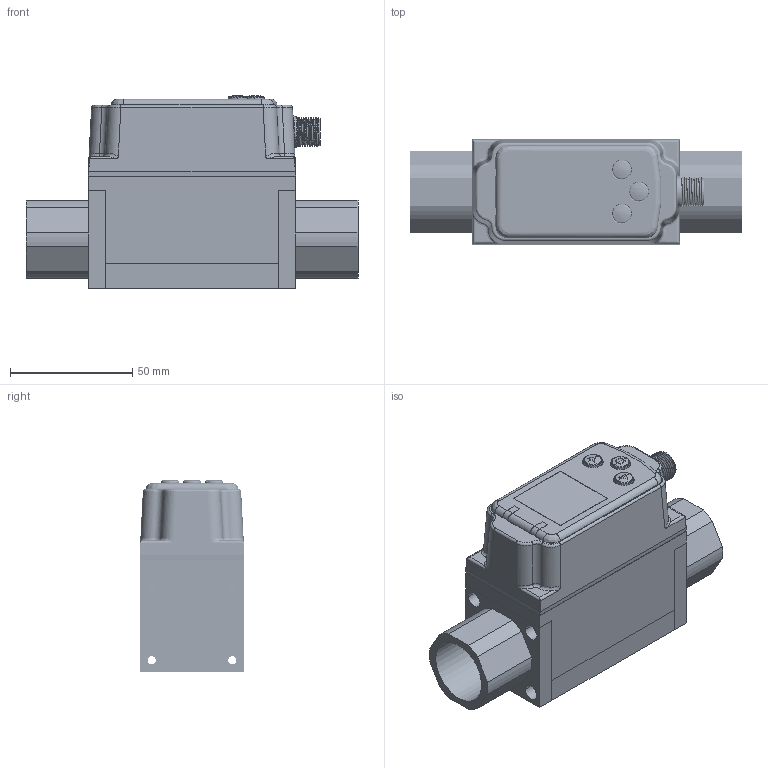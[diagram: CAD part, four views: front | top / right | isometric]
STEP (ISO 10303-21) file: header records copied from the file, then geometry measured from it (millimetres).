
FILE_DESCRIPTION (( 'STEP AP214' ), '1' );
FILE_NAME ('BFV2X20.STEP', '2025-06-25T07:26:47', ( '' ), ( '' ), 'SwSTEP 2.0', 'SolidWorks 2022', '' );
FILE_SCHEMA (( 'AUTOMOTIVE_DESIGN' ));
Length unit declared in the file: millimetre
Products named in the file (36): ADMI2E7CDAE9GQ3D_6^ADMI2E7CDAE9GQ3D_ASM_FXH-02000_ASM_BFV2X10(2)_BFV2X20; ADMI2E7CDAE9GQ3D_7^ADMI2E7CDAE9GQ3D_ASM_FXH-02000_ASM_BFV2X10(2)_BFV2X20; ADMI2E7CDAE9GQ3D_1^ADMI2E7CDAE9GQ3D_ASM_FXH-02000_ASM_BFV2X10(2)_BFV2X20; ADMI2E7CDAE9GQ3D_11^ADMI2E7CDAE9GQ3D_ASM_FXH-02000_ASM_BFV2X10(2)_BFV2X20; ADMI2E7CDAE9GQ3D_2^ADMI2E7CDAE9GQ3D_ASM_FXH-02000_ASM_BFV2X10(2)_BFV2X20; 071-316170001^07190001_ASM_BFV2X10(2)_BFV2X20; ADMI2E7CDAE9GQ3D_20^ADMI2E7CDAE9GQ3D_ASM_FXH-02000_ASM_BFV2X10(2)_BFV2X20; 222; ADMI2E7CDAE9GQ3D_13^ADMI2E7CDAE9GQ3D_ASM_FXH-02000_ASM_BFV2X10(2)_BFV2X20; 07190001_ASM^BFV2X10(2)_BFV2X20; 071-316200001^07190001_ASM_BFV2X10(2)_BFV2X20; ADMI2E7CDAE9GQ3D_10^ADMI2E7CDAE9GQ3D_ASM_FXH-02000_ASM_BFV2X10(2)_BFV2X20; 071-316150001^07190001_ASM_BFV2X10(2)_BFV2X20; ADMI2E7CDAE9GQ3D_3^ADMI2E7CDAE9GQ3D_ASM_FXH-02000_ASM_BFV2X10(2)_BFV2X20; BFV2X20; ADMI2E7CDAE9GQ3D_9^ADMI2E7CDAE9GQ3D_ASM_FXH-02000_ASM_BFV2X10(2)_BFV2X20; ADMI2E7CDAE9GQ3D_17^ADMI2E7CDAE9GQ3D_ASM_FXH-02000_ASM_BFV2X10(2)_BFV2X20; ADMI2E7CDAE9GQ3D_18^ADMI2E7CDAE9GQ3D_ASM_FXH-02000_ASM_BFV2X10(2)_BFV2X20; ADMI2E7CDAE9GQ3D_14^ADMI2E7CDAE9GQ3D_ASM_FXH-02000_ASM_BFV2X10(2)_BFV2X20; 0001^07190001_ASM_BFV2X10(2)_BFV2X10; ADMI2E7CDAE9GQ3D_8^ADMI2E7CDAE9GQ3D_ASM_FXH-02000_ASM_BFV2X10(2)_BFV2X20; ADMI2E7CDAE9GQ3D_4^ADMI2E7CDAE9GQ3D_ASM_FXH-02000_ASM_BFV2X10(2)_BFV2X20; 071-316220001^07190001_ASM_BFV2X10(2)_BFV2X20; 071-316190001^07190001_ASM_BFV2X10(2)_BFV2X20; FXH-02000_ASM^BFV2X10(2)_BFV2X20; 50001^07190001_ASM_BFV2X10(2)_BFV2X20; BFV2X10(2)^BFV2X20; 071-316210001^07190001_ASM_BFV2X10(2)_BFV2X20; ADMI2E7CDAE9GQ3D_12^ADMI2E7CDAE9GQ3D_ASM_FXH-02000_ASM_BFV2X10(2)_BFV2X20; ADMI2E7CDAE9GQ3D_15^ADMI2E7CDAE9GQ3D_ASM_FXH-02000_ASM_BFV2X10(2)_BFV2X20; ADMI2E7CDAE9GQ3D_5^ADMI2E7CDAE9GQ3D_ASM_FXH-02000_ASM_BFV2X10(2)_BFV2X20; ADMI2E7CDAE9GQ3D_19^ADMI2E7CDAE9GQ3D_ASM_FXH-02000_ASM_BFV2X10(2)_BFV2X20; ADMI2E7CDAE9GQ3D_16^ADMI2E7CDAE9GQ3D_ASM_FXH-02000_ASM_BFV2X10(2)_BFV2X20; 071-316180001^07190001_ASM_BFV2X10(2)_BFV2X20; 071-316160001^07190001_ASM_BFV2X10(2)_BFV2X20; ADMI2E7CDAE9GQ3D_ASM^FXH-02000_ASM_BFV2X10(2)_BFV2X20
Assembly tree (37 placements, depth 5):
  BFV2X20
    BFV2X10(2)^BFV2X20
      07190001_ASM^BFV2X10(2)_BFV2X20
        50001^07190001_ASM_BFV2X10(2)_BFV2X20
        071-316150001^07190001_ASM_BFV2X10(2)_BFV2X20
        071-316160001^07190001_ASM_BFV2X10(2)_BFV2X20
        071-316170001^07190001_ASM_BFV2X10(2)_BFV2X20
        071-316180001^07190001_ASM_BFV2X10(2)_BFV2X20
        071-316190001^07190001_ASM_BFV2X10(2)_BFV2X20
        071-316200001^07190001_ASM_BFV2X10(2)_BFV2X20
        071-316210001^07190001_ASM_BFV2X10(2)_BFV2X20
        071-316220001^07190001_ASM_BFV2X10(2)_BFV2X20
        0001^07190001_ASM_BFV2X10(2)_BFV2X10
      FXH-02000_ASM^BFV2X10(2)_BFV2X20
        ADMI2E7CDAE9GQ3D_ASM^FXH-02000_ASM_BFV2X10(2)_BFV2X20
          ADMI2E7CDAE9GQ3D_1^ADMI2E7CDAE9GQ3D_ASM_FXH-02000_ASM_BFV2X10(2)_BFV2X20
          ADMI2E7CDAE9GQ3D_2^ADMI2E7CDAE9GQ3D_ASM_FXH-02000_ASM_BFV2X10(2)_BFV2X20
          ADMI2E7CDAE9GQ3D_3^ADMI2E7CDAE9GQ3D_ASM_FXH-02000_ASM_BFV2X10(2)_BFV2X20
          ADMI2E7CDAE9GQ3D_4^ADMI2E7CDAE9GQ3D_ASM_FXH-02000_ASM_BFV2X10(2)_BFV2X20
          ADMI2E7CDAE9GQ3D_5^ADMI2E7CDAE9GQ3D_ASM_FXH-02000_ASM_BFV2X10(2)_BFV2X20
          ADMI2E7CDAE9GQ3D_6^ADMI2E7CDAE9GQ3D_ASM_FXH-02000_ASM_BFV2X10(2)_BFV2X20
          ADMI2E7CDAE9GQ3D_7^ADMI2E7CDAE9GQ3D_ASM_FXH-02000_ASM_BFV2X10(2)_BFV2X20
          ADMI2E7CDAE9GQ3D_8^ADMI2E7CDAE9GQ3D_ASM_FXH-02000_ASM_BFV2X10(2)_BFV2X20
          ADMI2E7CDAE9GQ3D_9^ADMI2E7CDAE9GQ3D_ASM_FXH-02000_ASM_BFV2X10(2)_BFV2X20
          ADMI2E7CDAE9GQ3D_10^ADMI2E7CDAE9GQ3D_ASM_FXH-02000_ASM_BFV2X10(2)_BFV2X20
          ADMI2E7CDAE9GQ3D_11^ADMI2E7CDAE9GQ3D_ASM_FXH-02000_ASM_BFV2X10(2)_BFV2X20
          ADMI2E7CDAE9GQ3D_12^ADMI2E7CDAE9GQ3D_ASM_FXH-02000_ASM_BFV2X10(2)_BFV2X20
          ADMI2E7CDAE9GQ3D_13^ADMI2E7CDAE9GQ3D_ASM_FXH-02000_ASM_BFV2X10(2)_BFV2X20
          ADMI2E7CDAE9GQ3D_14^ADMI2E7CDAE9GQ3D_ASM_FXH-02000_ASM_BFV2X10(2)_BFV2X20
          ADMI2E7CDAE9GQ3D_15^ADMI2E7CDAE9GQ3D_ASM_FXH-02000_ASM_BFV2X10(2)_BFV2X20
          ADMI2E7CDAE9GQ3D_16^ADMI2E7CDAE9GQ3D_ASM_FXH-02000_ASM_BFV2X10(2)_BFV2X20
          ADMI2E7CDAE9GQ3D_17^ADMI2E7CDAE9GQ3D_ASM_FXH-02000_ASM_BFV2X10(2)_BFV2X20
          ADMI2E7CDAE9GQ3D_18^ADMI2E7CDAE9GQ3D_ASM_FXH-02000_ASM_BFV2X10(2)_BFV2X20
          ADMI2E7CDAE9GQ3D_19^ADMI2E7CDAE9GQ3D_ASM_FXH-02000_ASM_BFV2X10(2)_BFV2X20
          ADMI2E7CDAE9GQ3D_20^ADMI2E7CDAE9GQ3D_ASM_FXH-02000_ASM_BFV2X10(2)_BFV2X20
    0001^07190001_ASM_BFV2X10(2)_BFV2X10
    222  x2
Bounding box: 136 x 43 x 78.95 mm (x, y, z)
Volume: 139361.4 mm3; surface area: 123076.5 mm2
Topology: 30 solids, 41 shells, 3643 faces, 10298 edges, 6835 vertices
Faces by surface type: plane 1864, cylinder 1326, cone 180, bspline 173, torus 88, sphere 12
Entity records: 173586 total; most frequent: CARTESIAN_POINT 91775, ORIENTED_EDGE 20194, DIRECTION 11490, EDGE_CURVE 10154, B_SPLINE_CURVE_WITH_KNOTS 6771, VERTEX_POINT 6747, AXIS2_PLACEMENT_3D 4684, EDGE_LOOP 3864
